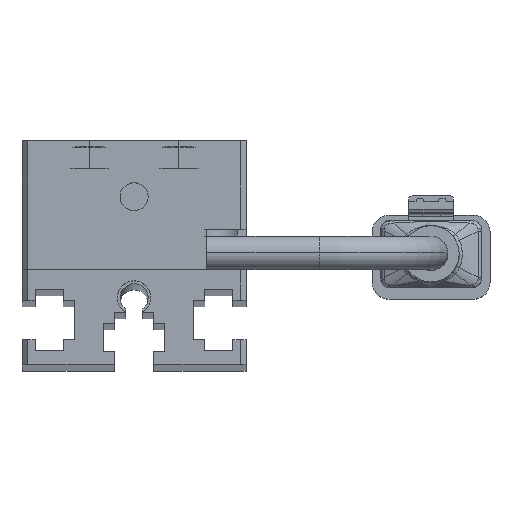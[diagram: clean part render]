
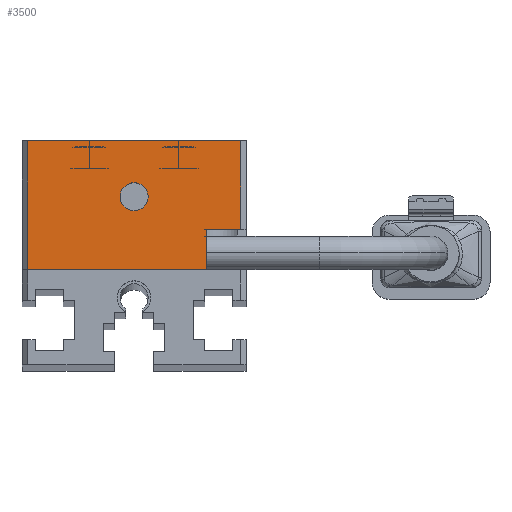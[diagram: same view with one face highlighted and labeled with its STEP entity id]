
A CAD part, top view. The second image highlights one B-rep face of the part: STEP entity #3500.
In plain terms, the highlighted planar face has unit normal (0, 0, 1) as drawn and (0, 0, -1) by its records, which use the part's own axes.
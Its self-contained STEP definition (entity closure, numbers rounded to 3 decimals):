
#314 = DIRECTION ( 'NONE',  ( 0., 1., 0. ) ) ;
#336 = DIRECTION ( 'NONE',  ( 0., 0., -1. ) ) ;
#736 = VECTOR ( 'NONE', #2771, 1000. ) ;
#879 = LINE ( 'NONE', #9026, #11364 ) ;
#965 = DIRECTION ( 'NONE',  ( -1., 0., 0. ) ) ;
#1203 = LINE ( 'NONE', #11165, #12841 ) ;
#1223 = CARTESIAN_POINT ( 'NONE',  ( 9.5, 11.5, 0. ) ) ;
#1281 = VERTEX_POINT ( 'NONE', #12891 ) ;
#1518 = VERTEX_POINT ( 'NONE', #8239 ) ;
#1552 = DIRECTION ( 'NONE',  ( 0., 0., -1. ) ) ;
#2013 = EDGE_CURVE ( 'NONE', #10305, #1518, #12893, .T. ) ;
#2507 = EDGE_CURVE ( 'NONE', #5504, #4924, #11086, .T. ) ;
#2539 = DIRECTION ( 'NONE',  ( -1., 0., 0. ) ) ;
#2738 = EDGE_CURVE ( 'NONE', #13137, #4924, #3608, .T. ) ;
#2771 = DIRECTION ( 'NONE',  ( 1., 0., 0. ) ) ;
#2871 = DIRECTION ( 'NONE',  ( 1., 0., 0. ) ) ;
#3223 = ORIENTED_EDGE ( 'NONE', *, *, #5928, .F. ) ;
#3500 = ADVANCED_FACE ( 'NONE', ( #5756, #9826 ), #5697, .T. ) ;
#3608 = LINE ( 'NONE', #12840, #5870 ) ;
#3919 = CARTESIAN_POINT ( 'NONE',  ( -9.5, 3.6, 0. ) ) ;
#4287 = EDGE_CURVE ( 'NONE', #5504, #1518, #5244, .T. ) ;
#4292 = EDGE_CURVE ( 'NONE', #7068, #1281, #11256, .T. ) ;
#4362 = CARTESIAN_POINT ( 'NONE',  ( 0., 6.5, 0. ) ) ;
#4924 = VERTEX_POINT ( 'NONE', #7260 ) ;
#5181 = CARTESIAN_POINT ( 'NONE',  ( 0., 6.5, 0. ) ) ;
#5244 = LINE ( 'NONE', #7308, #9566 ) ;
#5343 = ORIENTED_EDGE ( 'NONE', *, *, #2507, .F. ) ;
#5443 = VECTOR ( 'NONE', #6942, 1000. ) ;
#5504 = VERTEX_POINT ( 'NONE', #1223 ) ;
#5520 = ORIENTED_EDGE ( 'NONE', *, *, #7316, .F. ) ;
#5697 = PLANE ( 'NONE',  #6873 ) ;
#5717 = EDGE_LOOP ( 'NONE', ( #7598, #5520, #5732, #5343, #10764, #10694 ) ) ;
#5732 = ORIENTED_EDGE ( 'NONE', *, *, #2738, .T. ) ;
#5756 = FACE_OUTER_BOUND ( 'NONE', #5717, .T. ) ;
#5870 = VECTOR ( 'NONE', #314, 1000. ) ;
#5928 = EDGE_CURVE ( 'NONE', #1281, #7068, #12686, .T. ) ;
#6044 = DIRECTION ( 'NONE',  ( 0., 0., -1. ) ) ;
#6107 = DIRECTION ( 'NONE',  ( 0., -1., 0. ) ) ;
#6218 = DIRECTION ( 'NONE',  ( 0., -1., 0. ) ) ;
#6246 = EDGE_LOOP ( 'NONE', ( #9108, #3223 ) ) ;
#6359 = DIRECTION ( 'NONE',  ( -1., 0., 0. ) ) ;
#6873 = AXIS2_PLACEMENT_3D ( 'NONE', #11693, #1552, #2539 ) ;
#6942 = DIRECTION ( 'NONE',  ( -1., 0., 0. ) ) ;
#7068 = VERTEX_POINT ( 'NONE', #9100 ) ;
#7080 = CARTESIAN_POINT ( 'NONE',  ( -10., 11.5, 0. ) ) ;
#7260 = CARTESIAN_POINT ( 'NONE',  ( -9.5, 11.5, 0. ) ) ;
#7308 = CARTESIAN_POINT ( 'NONE',  ( 9.5, 0., 0. ) ) ;
#7316 = EDGE_CURVE ( 'NONE', #13137, #10730, #879, .T. ) ;
#7598 = ORIENTED_EDGE ( 'NONE', *, *, #8512, .F. ) ;
#8239 = CARTESIAN_POINT ( 'NONE',  ( 9.5, 0., 0. ) ) ;
#8293 = AXIS2_PLACEMENT_3D ( 'NONE', #5181, #6044, #965 ) ;
#8512 = EDGE_CURVE ( 'NONE', #10730, #10305, #1203, .T. ) ;
#9026 = CARTESIAN_POINT ( 'NONE',  ( -9.5, 3.6, 0. ) ) ;
#9100 = CARTESIAN_POINT ( 'NONE',  ( -1.25, 6.5, 0. ) ) ;
#9108 = ORIENTED_EDGE ( 'NONE', *, *, #4292, .F. ) ;
#9566 = VECTOR ( 'NONE', #6107, 1000. ) ;
#9826 = FACE_BOUND ( 'NONE', #6246, .T. ) ;
#9929 = CARTESIAN_POINT ( 'NONE',  ( -10., 0., 0. ) ) ;
#10305 = VERTEX_POINT ( 'NONE', #12038 ) ;
#10461 = CARTESIAN_POINT ( 'NONE',  ( -6.5, 3.6, 0. ) ) ;
#10694 = ORIENTED_EDGE ( 'NONE', *, *, #2013, .F. ) ;
#10730 = VERTEX_POINT ( 'NONE', #10461 ) ;
#10764 = ORIENTED_EDGE ( 'NONE', *, *, #4287, .T. ) ;
#11086 = LINE ( 'NONE', #7080, #5443 ) ;
#11165 = CARTESIAN_POINT ( 'NONE',  ( -6.5, 3., 0. ) ) ;
#11256 = CIRCLE ( 'NONE', #8293, 1.25 ) ;
#11364 = VECTOR ( 'NONE', #2871, 1000. ) ;
#11693 = CARTESIAN_POINT ( 'NONE',  ( -10., 11.5, 0. ) ) ;
#12038 = CARTESIAN_POINT ( 'NONE',  ( -6.5, 0., 0. ) ) ;
#12466 = AXIS2_PLACEMENT_3D ( 'NONE', #4362, #336, #6359 ) ;
#12686 = CIRCLE ( 'NONE', #12466, 1.25 ) ;
#12840 = CARTESIAN_POINT ( 'NONE',  ( -9.5, 11.5, 0. ) ) ;
#12841 = VECTOR ( 'NONE', #6218, 1000. ) ;
#12891 = CARTESIAN_POINT ( 'NONE',  ( 1.25, 6.5, 0. ) ) ;
#12893 = LINE ( 'NONE', #9929, #736 ) ;
#13137 = VERTEX_POINT ( 'NONE', #3919 ) ;
